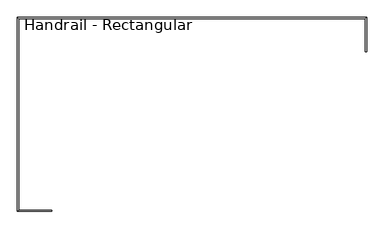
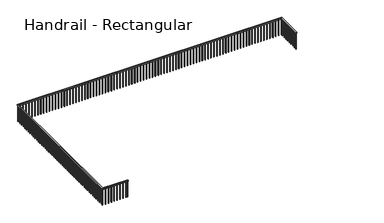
"""IFC4 building model written with IfcOpenShell, lengths in millimetres: railing geometry, Handrail - Rectangular."""

from ifc_helpers import new_model, si_unit, frame, origin, place, context, project, spatial, polyline, outline, extrude, faceted_brep, source, transform, mapped, element, save


def handrail_rectangular_46134f40(model_context):
    return source(origin(), model_context, "Body", "SolidModel", [
        faceted_brep([(-18781.6839563, 10624.0316867, 10058.4), (-18781.6839563, 10624.0316867, 10007.6), (-18730.8839563, 10624.0316867, 10007.6), (-18730.8839563, 10624.0316867, 10058.4), (-18730.8839563, 11970.2316867, 10058.4), (-18781.6839563, 11919.4316867, 10058.4), (-18730.8839563, 11970.2316867, 10007.6), (-18781.6839563, 11919.4316867, 10007.6), (-32446.8839563, 11970.2316867, 10058.4), (-32396.0839563, 11919.4316867, 10058.4), (-32446.8839563, 11970.2316867, 10007.6), (-32396.0839563, 11919.4316867, 10007.6), (-32446.8839563, 4350.2316867, 10058.4), (-32396.0839563, 4401.0316867, 10058.4), (-32446.8839563, 4350.2316867, 10007.6), (-32396.0839563, 4401.0316867, 10007.6), (-31100.6839563, 4401.0316867, 10058.4), (-31100.6839563, 4350.2316867, 10058.4), (-31100.6839563, 4350.2316867, 10007.6), (-31100.6839563, 4401.0316867, 10007.6)], [[[0, 1, 2, 3]], [[0, 3, 4, 5]], [[3, 2, 6, 4]], [[2, 1, 7, 6]], [[1, 0, 5, 7]], [[5, 4, 8, 9]], [[4, 6, 10, 8]], [[6, 7, 11, 10]], [[7, 5, 9, 11]], [[9, 8, 12, 13]], [[8, 10, 14, 12]], [[10, 11, 15, 14]], [[11, 9, 13, 15]], [[16, 17, 18, 19]], [[13, 12, 17, 16]], [[12, 14, 18, 17]], [[14, 15, 19, 18]], [[15, 13, 16, 19]]]),
        extrude(outline(polyline([(-31211.8089563, 4385.1566867), (-31192.7589563, 4385.1566867), (-31192.7589563, 4366.1066867), (-31211.8089563, 4366.1066867), (-31211.8089563, 4385.1566867)])), frame((0.0, 0.0, 9144.0), z_axis=(0.0, 0.0, 1.0), x_axis=(1.0, 0.0, 0.0)), (0.0, 0.0, 1.0), 863.6),
        extrude(outline(polyline([(-31364.2089563, 4385.1566867), (-31345.1589563, 4385.1566867), (-31345.1589563, 4366.1066867), (-31364.2089563, 4366.1066867), (-31364.2089563, 4385.1566867)])), frame((0.0, 0.0, 9144.0), z_axis=(0.0, 0.0, 1.0), x_axis=(1.0, 0.0, 0.0)), (0.0, 0.0, 1.0), 863.6),
        extrude(outline(polyline([(-31516.6089563, 4385.1566867), (-31497.5589563, 4385.1566867), (-31497.5589563, 4366.1066867), (-31516.6089563, 4366.1066867), (-31516.6089563, 4385.1566867)])), frame((0.0, 0.0, 9144.0), z_axis=(0.0, 0.0, 1.0), x_axis=(1.0, 0.0, 0.0)), (0.0, 0.0, 1.0), 863.6),
        extrude(outline(polyline([(-31669.0089563, 4385.1566867), (-31649.9589563, 4385.1566867), (-31649.9589563, 4366.1066867), (-31669.0089563, 4366.1066867), (-31669.0089563, 4385.1566867)])), frame((0.0, 0.0, 9144.0), z_axis=(0.0, 0.0, 1.0), x_axis=(1.0, 0.0, 0.0)), (0.0, 0.0, 1.0), 863.6),
        extrude(outline(polyline([(-31821.4089563, 4385.1566867), (-31802.3589563, 4385.1566867), (-31802.3589563, 4366.1066867), (-31821.4089563, 4366.1066867), (-31821.4089563, 4385.1566867)])), frame((0.0, 0.0, 9144.0), z_axis=(0.0, 0.0, 1.0), x_axis=(1.0, 0.0, 0.0)), (0.0, 0.0, 1.0), 863.6),
        extrude(outline(polyline([(-31973.8089563, 4385.1566867), (-31954.7589563, 4385.1566867), (-31954.7589563, 4366.1066867), (-31973.8089563, 4366.1066867), (-31973.8089563, 4385.1566867)])), frame((0.0, 0.0, 9144.0), z_axis=(0.0, 0.0, 1.0), x_axis=(1.0, 0.0, 0.0)), (0.0, 0.0, 1.0), 863.6),
        extrude(outline(polyline([(-32126.2089563, 4385.1566867), (-32107.1589563, 4385.1566867), (-32107.1589563, 4366.1066867), (-32126.2089563, 4366.1066867), (-32126.2089563, 4385.1566867)])), frame((0.0, 0.0, 9144.0), z_axis=(0.0, 0.0, 1.0), x_axis=(1.0, 0.0, 0.0)), (0.0, 0.0, 1.0), 863.6),
        extrude(outline(polyline([(-32278.6089563, 4385.1566867), (-32259.5589563, 4385.1566867), (-32259.5589563, 4366.1066867), (-32278.6089563, 4366.1066867), (-32278.6089563, 4385.1566867)])), frame((0.0, 0.0, 9144.0), z_axis=(0.0, 0.0, 1.0), x_axis=(1.0, 0.0, 0.0)), (0.0, 0.0, 1.0), 863.6),
        extrude(outline(polyline([(-32411.9589563, 4486.7566867), (-32411.9589563, 4467.7066867), (-32431.0089563, 4467.7066867), (-32431.0089563, 4486.7566867), (-32411.9589563, 4486.7566867)])), frame((0.0, 0.0, 9144.0), z_axis=(0.0, 0.0, 1.0), x_axis=(1.0, 0.0, 0.0)), (0.0, 0.0, 1.0), 863.6),
        extrude(outline(polyline([(-32411.9589563, 4639.1566867), (-32411.9589563, 4620.1066867), (-32431.0089563, 4620.1066867), (-32431.0089563, 4639.1566867), (-32411.9589563, 4639.1566867)])), frame((0.0, 0.0, 9144.0), z_axis=(0.0, 0.0, 1.0), x_axis=(1.0, 0.0, 0.0)), (0.0, 0.0, 1.0), 863.6),
        extrude(outline(polyline([(-32411.9589563, 4791.5566867), (-32411.9589563, 4772.5066867), (-32431.0089563, 4772.5066867), (-32431.0089563, 4791.5566867), (-32411.9589563, 4791.5566867)])), frame((0.0, 0.0, 9144.0), z_axis=(0.0, 0.0, 1.0), x_axis=(1.0, 0.0, 0.0)), (0.0, 0.0, 1.0), 863.6),
        extrude(outline(polyline([(-32411.9589563, 4943.9566867), (-32411.9589563, 4924.9066867), (-32431.0089563, 4924.9066867), (-32431.0089563, 4943.9566867), (-32411.9589563, 4943.9566867)])), frame((0.0, 0.0, 9144.0), z_axis=(0.0, 0.0, 1.0), x_axis=(1.0, 0.0, 0.0)), (0.0, 0.0, 1.0), 863.6),
        extrude(outline(polyline([(-32411.9589563, 5096.3566867), (-32411.9589563, 5077.3066867), (-32431.0089563, 5077.3066867), (-32431.0089563, 5096.3566867), (-32411.9589563, 5096.3566867)])), frame((0.0, 0.0, 9144.0), z_axis=(0.0, 0.0, 1.0), x_axis=(1.0, 0.0, 0.0)), (0.0, 0.0, 1.0), 863.6),
        extrude(outline(polyline([(-32411.9589563, 5248.7566867), (-32411.9589563, 5229.7066867), (-32431.0089563, 5229.7066867), (-32431.0089563, 5248.7566867), (-32411.9589563, 5248.7566867)])), frame((0.0, 0.0, 9144.0), z_axis=(0.0, 0.0, 1.0), x_axis=(1.0, 0.0, 0.0)), (0.0, 0.0, 1.0), 863.6),
        extrude(outline(polyline([(-32411.9589563, 5401.1566867), (-32411.9589563, 5382.1066867), (-32431.0089563, 5382.1066867), (-32431.0089563, 5401.1566867), (-32411.9589563, 5401.1566867)])), frame((0.0, 0.0, 9144.0), z_axis=(0.0, 0.0, 1.0), x_axis=(1.0, 0.0, 0.0)), (0.0, 0.0, 1.0), 863.6),
        extrude(outline(polyline([(-32411.9589563, 5553.5566867), (-32411.9589563, 5534.5066867), (-32431.0089563, 5534.5066867), (-32431.0089563, 5553.5566867), (-32411.9589563, 5553.5566867)])), frame((0.0, 0.0, 9144.0), z_axis=(0.0, 0.0, 1.0), x_axis=(1.0, 0.0, 0.0)), (0.0, 0.0, 1.0), 863.6),
        extrude(outline(polyline([(-32411.9589563, 5705.9566867), (-32411.9589563, 5686.9066867), (-32431.0089563, 5686.9066867), (-32431.0089563, 5705.9566867), (-32411.9589563, 5705.9566867)])), frame((0.0, 0.0, 9144.0), z_axis=(0.0, 0.0, 1.0), x_axis=(1.0, 0.0, 0.0)), (0.0, 0.0, 1.0), 863.6),
        extrude(outline(polyline([(-32411.9589563, 5858.3566867), (-32411.9589563, 5839.3066867), (-32431.0089563, 5839.3066867), (-32431.0089563, 5858.3566867), (-32411.9589563, 5858.3566867)])), frame((0.0, 0.0, 9144.0), z_axis=(0.0, 0.0, 1.0), x_axis=(1.0, 0.0, 0.0)), (0.0, 0.0, 1.0), 863.6),
        extrude(outline(polyline([(-32411.9589563, 6010.7566867), (-32411.9589563, 5991.7066867), (-32431.0089563, 5991.7066867), (-32431.0089563, 6010.7566867), (-32411.9589563, 6010.7566867)])), frame((0.0, 0.0, 9144.0), z_axis=(0.0, 0.0, 1.0), x_axis=(1.0, 0.0, 0.0)), (0.0, 0.0, 1.0), 863.6),
        extrude(outline(polyline([(-32411.9589563, 6163.1566867), (-32411.9589563, 6144.1066867), (-32431.0089563, 6144.1066867), (-32431.0089563, 6163.1566867), (-32411.9589563, 6163.1566867)])), frame((0.0, 0.0, 9144.0), z_axis=(0.0, 0.0, 1.0), x_axis=(1.0, 0.0, 0.0)), (0.0, 0.0, 1.0), 863.6),
        extrude(outline(polyline([(-32411.9589563, 6315.5566867), (-32411.9589563, 6296.5066867), (-32431.0089563, 6296.5066867), (-32431.0089563, 6315.5566867), (-32411.9589563, 6315.5566867)])), frame((0.0, 0.0, 9144.0), z_axis=(0.0, 0.0, 1.0), x_axis=(1.0, 0.0, 0.0)), (0.0, 0.0, 1.0), 863.6),
        extrude(outline(polyline([(-32411.9589563, 6467.9566867), (-32411.9589563, 6448.9066867), (-32431.0089563, 6448.9066867), (-32431.0089563, 6467.9566867), (-32411.9589563, 6467.9566867)])), frame((0.0, 0.0, 9144.0), z_axis=(0.0, 0.0, 1.0), x_axis=(1.0, 0.0, 0.0)), (0.0, 0.0, 1.0), 863.6),
        extrude(outline(polyline([(-32411.9589563, 6620.3566867), (-32411.9589563, 6601.3066867), (-32431.0089563, 6601.3066867), (-32431.0089563, 6620.3566867), (-32411.9589563, 6620.3566867)])), frame((0.0, 0.0, 9144.0), z_axis=(0.0, 0.0, 1.0), x_axis=(1.0, 0.0, 0.0)), (0.0, 0.0, 1.0), 863.6),
        extrude(outline(polyline([(-32411.9589563, 6772.7566867), (-32411.9589563, 6753.7066867), (-32431.0089563, 6753.7066867), (-32431.0089563, 6772.7566867), (-32411.9589563, 6772.7566867)])), frame((0.0, 0.0, 9144.0), z_axis=(0.0, 0.0, 1.0), x_axis=(1.0, 0.0, 0.0)), (0.0, 0.0, 1.0), 863.6),
        extrude(outline(polyline([(-32411.9589563, 6925.1566867), (-32411.9589563, 6906.1066867), (-32431.0089563, 6906.1066867), (-32431.0089563, 6925.1566867), (-32411.9589563, 6925.1566867)])), frame((0.0, 0.0, 9144.0), z_axis=(0.0, 0.0, 1.0), x_axis=(1.0, 0.0, 0.0)), (0.0, 0.0, 1.0), 863.6),
        extrude(outline(polyline([(-32411.9589563, 7077.5566867), (-32411.9589563, 7058.5066867), (-32431.0089563, 7058.5066867), (-32431.0089563, 7077.5566867), (-32411.9589563, 7077.5566867)])), frame((0.0, 0.0, 9144.0), z_axis=(0.0, 0.0, 1.0), x_axis=(1.0, 0.0, 0.0)), (0.0, 0.0, 1.0), 863.6),
        extrude(outline(polyline([(-32411.9589563, 7229.9566867), (-32411.9589563, 7210.9066867), (-32431.0089563, 7210.9066867), (-32431.0089563, 7229.9566867), (-32411.9589563, 7229.9566867)])), frame((0.0, 0.0, 9144.0), z_axis=(0.0, 0.0, 1.0), x_axis=(1.0, 0.0, 0.0)), (0.0, 0.0, 1.0), 863.6),
        extrude(outline(polyline([(-32411.9589563, 7382.3566867), (-32411.9589563, 7363.3066867), (-32431.0089563, 7363.3066867), (-32431.0089563, 7382.3566867), (-32411.9589563, 7382.3566867)])), frame((0.0, 0.0, 9144.0), z_axis=(0.0, 0.0, 1.0), x_axis=(1.0, 0.0, 0.0)), (0.0, 0.0, 1.0), 863.6),
        extrude(outline(polyline([(-32411.9589563, 7534.7566867), (-32411.9589563, 7515.7066867), (-32431.0089563, 7515.7066867), (-32431.0089563, 7534.7566867), (-32411.9589563, 7534.7566867)])), frame((0.0, 0.0, 9144.0), z_axis=(0.0, 0.0, 1.0), x_axis=(1.0, 0.0, 0.0)), (0.0, 0.0, 1.0), 863.6),
        extrude(outline(polyline([(-32411.9589563, 7687.1566867), (-32411.9589563, 7668.1066867), (-32431.0089563, 7668.1066867), (-32431.0089563, 7687.1566867), (-32411.9589563, 7687.1566867)])), frame((0.0, 0.0, 9144.0), z_axis=(0.0, 0.0, 1.0), x_axis=(1.0, 0.0, 0.0)), (0.0, 0.0, 1.0), 863.6),
        extrude(outline(polyline([(-32411.9589563, 7839.5566867), (-32411.9589563, 7820.5066867), (-32431.0089563, 7820.5066867), (-32431.0089563, 7839.5566867), (-32411.9589563, 7839.5566867)])), frame((0.0, 0.0, 9144.0), z_axis=(0.0, 0.0, 1.0), x_axis=(1.0, 0.0, 0.0)), (0.0, 0.0, 1.0), 863.6),
        extrude(outline(polyline([(-32411.9589563, 7991.9566867), (-32411.9589563, 7972.9066867), (-32431.0089563, 7972.9066867), (-32431.0089563, 7991.9566867), (-32411.9589563, 7991.9566867)])), frame((0.0, 0.0, 9144.0), z_axis=(0.0, 0.0, 1.0), x_axis=(1.0, 0.0, 0.0)), (0.0, 0.0, 1.0), 863.6),
        extrude(outline(polyline([(-32411.9589563, 8144.3566867), (-32411.9589563, 8125.3066867), (-32431.0089563, 8125.3066867), (-32431.0089563, 8144.3566867), (-32411.9589563, 8144.3566867)])), frame((0.0, 0.0, 9144.0), z_axis=(0.0, 0.0, 1.0), x_axis=(1.0, 0.0, 0.0)), (0.0, 0.0, 1.0), 863.6),
        extrude(outline(polyline([(-32411.9589563, 8296.7566867), (-32411.9589563, 8277.7066867), (-32431.0089563, 8277.7066867), (-32431.0089563, 8296.7566867), (-32411.9589563, 8296.7566867)])), frame((0.0, 0.0, 9144.0), z_axis=(0.0, 0.0, 1.0), x_axis=(1.0, 0.0, 0.0)), (0.0, 0.0, 1.0), 863.6),
        extrude(outline(polyline([(-32411.9589563, 8449.1566867), (-32411.9589563, 8430.1066867), (-32431.0089563, 8430.1066867), (-32431.0089563, 8449.1566867), (-32411.9589563, 8449.1566867)])), frame((0.0, 0.0, 9144.0), z_axis=(0.0, 0.0, 1.0), x_axis=(1.0, 0.0, 0.0)), (0.0, 0.0, 1.0), 863.6),
        extrude(outline(polyline([(-32411.9589563, 8601.5566867), (-32411.9589563, 8582.5066867), (-32431.0089563, 8582.5066867), (-32431.0089563, 8601.5566867), (-32411.9589563, 8601.5566867)])), frame((0.0, 0.0, 9144.0), z_axis=(0.0, 0.0, 1.0), x_axis=(1.0, 0.0, 0.0)), (0.0, 0.0, 1.0), 863.6),
        extrude(outline(polyline([(-32411.9589563, 8753.9566867), (-32411.9589563, 8734.9066867), (-32431.0089563, 8734.9066867), (-32431.0089563, 8753.9566867), (-32411.9589563, 8753.9566867)])), frame((0.0, 0.0, 9144.0), z_axis=(0.0, 0.0, 1.0), x_axis=(1.0, 0.0, 0.0)), (0.0, 0.0, 1.0), 863.6),
        extrude(outline(polyline([(-32411.9589563, 8906.3566867), (-32411.9589563, 8887.3066867), (-32431.0089563, 8887.3066867), (-32431.0089563, 8906.3566867), (-32411.9589563, 8906.3566867)])), frame((0.0, 0.0, 9144.0), z_axis=(0.0, 0.0, 1.0), x_axis=(1.0, 0.0, 0.0)), (0.0, 0.0, 1.0), 863.6),
        extrude(outline(polyline([(-32411.9589563, 9058.7566867), (-32411.9589563, 9039.7066867), (-32431.0089563, 9039.7066867), (-32431.0089563, 9058.7566867), (-32411.9589563, 9058.7566867)])), frame((0.0, 0.0, 9144.0), z_axis=(0.0, 0.0, 1.0), x_axis=(1.0, 0.0, 0.0)), (0.0, 0.0, 1.0), 863.6),
        extrude(outline(polyline([(-32411.9589563, 9211.1566867), (-32411.9589563, 9192.1066867), (-32431.0089563, 9192.1066867), (-32431.0089563, 9211.1566867), (-32411.9589563, 9211.1566867)])), frame((0.0, 0.0, 9144.0), z_axis=(0.0, 0.0, 1.0), x_axis=(1.0, 0.0, 0.0)), (0.0, 0.0, 1.0), 863.6),
        extrude(outline(polyline([(-32411.9589563, 9363.5566867), (-32411.9589563, 9344.5066867), (-32431.0089563, 9344.5066867), (-32431.0089563, 9363.5566867), (-32411.9589563, 9363.5566867)])), frame((0.0, 0.0, 9144.0), z_axis=(0.0, 0.0, 1.0), x_axis=(1.0, 0.0, 0.0)), (0.0, 0.0, 1.0), 863.6),
        extrude(outline(polyline([(-32411.9589563, 9515.9566867), (-32411.9589563, 9496.9066867), (-32431.0089563, 9496.9066867), (-32431.0089563, 9515.9566867), (-32411.9589563, 9515.9566867)])), frame((0.0, 0.0, 9144.0), z_axis=(0.0, 0.0, 1.0), x_axis=(1.0, 0.0, 0.0)), (0.0, 0.0, 1.0), 863.6),
        extrude(outline(polyline([(-32411.9589563, 9668.3566867), (-32411.9589563, 9649.3066867), (-32431.0089563, 9649.3066867), (-32431.0089563, 9668.3566867), (-32411.9589563, 9668.3566867)])), frame((0.0, 0.0, 9144.0), z_axis=(0.0, 0.0, 1.0), x_axis=(1.0, 0.0, 0.0)), (0.0, 0.0, 1.0), 863.6),
        extrude(outline(polyline([(-32411.9589563, 9820.7566867), (-32411.9589563, 9801.7066867), (-32431.0089563, 9801.7066867), (-32431.0089563, 9820.7566867), (-32411.9589563, 9820.7566867)])), frame((0.0, 0.0, 9144.0), z_axis=(0.0, 0.0, 1.0), x_axis=(1.0, 0.0, 0.0)), (0.0, 0.0, 1.0), 863.6),
        extrude(outline(polyline([(-32411.9589563, 9973.1566867), (-32411.9589563, 9954.1066867), (-32431.0089563, 9954.1066867), (-32431.0089563, 9973.1566867), (-32411.9589563, 9973.1566867)])), frame((0.0, 0.0, 9144.0), z_axis=(0.0, 0.0, 1.0), x_axis=(1.0, 0.0, 0.0)), (0.0, 0.0, 1.0), 863.6),
        extrude(outline(polyline([(-32411.9589563, 10125.5566867), (-32411.9589563, 10106.5066867), (-32431.0089563, 10106.5066867), (-32431.0089563, 10125.5566867), (-32411.9589563, 10125.5566867)])), frame((0.0, 0.0, 9144.0), z_axis=(0.0, 0.0, 1.0), x_axis=(1.0, 0.0, 0.0)), (0.0, 0.0, 1.0), 863.6),
        extrude(outline(polyline([(-32411.9589563, 10277.9566867), (-32411.9589563, 10258.9066867), (-32431.0089563, 10258.9066867), (-32431.0089563, 10277.9566867), (-32411.9589563, 10277.9566867)])), frame((0.0, 0.0, 9144.0), z_axis=(0.0, 0.0, 1.0), x_axis=(1.0, 0.0, 0.0)), (0.0, 0.0, 1.0), 863.6),
        extrude(outline(polyline([(-32411.9589563, 10430.3566867), (-32411.9589563, 10411.3066867), (-32431.0089563, 10411.3066867), (-32431.0089563, 10430.3566867), (-32411.9589563, 10430.3566867)])), frame((0.0, 0.0, 9144.0), z_axis=(0.0, 0.0, 1.0), x_axis=(1.0, 0.0, 0.0)), (0.0, 0.0, 1.0), 863.6),
        extrude(outline(polyline([(-32411.9589563, 10582.7566867), (-32411.9589563, 10563.7066867), (-32431.0089563, 10563.7066867), (-32431.0089563, 10582.7566867), (-32411.9589563, 10582.7566867)])), frame((0.0, 0.0, 9144.0), z_axis=(0.0, 0.0, 1.0), x_axis=(1.0, 0.0, 0.0)), (0.0, 0.0, 1.0), 863.6),
        extrude(outline(polyline([(-32411.9589563, 10735.1566867), (-32411.9589563, 10716.1066867), (-32431.0089563, 10716.1066867), (-32431.0089563, 10735.1566867), (-32411.9589563, 10735.1566867)])), frame((0.0, 0.0, 9144.0), z_axis=(0.0, 0.0, 1.0), x_axis=(1.0, 0.0, 0.0)), (0.0, 0.0, 1.0), 863.6),
        extrude(outline(polyline([(-32411.9589563, 10887.5566867), (-32411.9589563, 10868.5066867), (-32431.0089563, 10868.5066867), (-32431.0089563, 10887.5566867), (-32411.9589563, 10887.5566867)])), frame((0.0, 0.0, 9144.0), z_axis=(0.0, 0.0, 1.0), x_axis=(1.0, 0.0, 0.0)), (0.0, 0.0, 1.0), 863.6),
        extrude(outline(polyline([(-32411.9589563, 11039.9566867), (-32411.9589563, 11020.9066867), (-32431.0089563, 11020.9066867), (-32431.0089563, 11039.9566867), (-32411.9589563, 11039.9566867)])), frame((0.0, 0.0, 9144.0), z_axis=(0.0, 0.0, 1.0), x_axis=(1.0, 0.0, 0.0)), (0.0, 0.0, 1.0), 863.6),
        extrude(outline(polyline([(-32411.9589563, 11192.3566867), (-32411.9589563, 11173.3066867), (-32431.0089563, 11173.3066867), (-32431.0089563, 11192.3566867), (-32411.9589563, 11192.3566867)])), frame((0.0, 0.0, 9144.0), z_axis=(0.0, 0.0, 1.0), x_axis=(1.0, 0.0, 0.0)), (0.0, 0.0, 1.0), 863.6),
        extrude(outline(polyline([(-32411.9589563, 11344.7566867), (-32411.9589563, 11325.7066867), (-32431.0089563, 11325.7066867), (-32431.0089563, 11344.7566867), (-32411.9589563, 11344.7566867)])), frame((0.0, 0.0, 9144.0), z_axis=(0.0, 0.0, 1.0), x_axis=(1.0, 0.0, 0.0)), (0.0, 0.0, 1.0), 863.6),
        extrude(outline(polyline([(-32411.9589563, 11497.1566867), (-32411.9589563, 11478.1066867), (-32431.0089563, 11478.1066867), (-32431.0089563, 11497.1566867), (-32411.9589563, 11497.1566867)])), frame((0.0, 0.0, 9144.0), z_axis=(0.0, 0.0, 1.0), x_axis=(1.0, 0.0, 0.0)), (0.0, 0.0, 1.0), 863.6),
        extrude(outline(polyline([(-32411.9589563, 11649.5566867), (-32411.9589563, 11630.5066867), (-32431.0089563, 11630.5066867), (-32431.0089563, 11649.5566867), (-32411.9589563, 11649.5566867)])), frame((0.0, 0.0, 9144.0), z_axis=(0.0, 0.0, 1.0), x_axis=(1.0, 0.0, 0.0)), (0.0, 0.0, 1.0), 863.6),
        extrude(outline(polyline([(-32411.9589563, 11801.9566867), (-32411.9589563, 11782.9066867), (-32431.0089563, 11782.9066867), (-32431.0089563, 11801.9566867), (-32411.9589563, 11801.9566867)])), frame((0.0, 0.0, 9144.0), z_axis=(0.0, 0.0, 1.0), x_axis=(1.0, 0.0, 0.0)), (0.0, 0.0, 1.0), 863.6),
        extrude(outline(polyline([(-32310.3589563, 11935.3066867), (-32329.4089563, 11935.3066867), (-32329.4089563, 11954.3566867), (-32310.3589563, 11954.3566867), (-32310.3589563, 11935.3066867)])), frame((0.0, 0.0, 9144.0), z_axis=(0.0, 0.0, 1.0), x_axis=(1.0, 0.0, 0.0)), (0.0, 0.0, 1.0), 863.6),
        extrude(outline(polyline([(-32157.9589563, 11935.3066867), (-32177.0089563, 11935.3066867), (-32177.0089563, 11954.3566867), (-32157.9589563, 11954.3566867), (-32157.9589563, 11935.3066867)])), frame((0.0, 0.0, 9144.0), z_axis=(0.0, 0.0, 1.0), x_axis=(1.0, 0.0, 0.0)), (0.0, 0.0, 1.0), 863.6),
        extrude(outline(polyline([(-32005.5589563, 11935.3066867), (-32024.6089563, 11935.3066867), (-32024.6089563, 11954.3566867), (-32005.5589563, 11954.3566867), (-32005.5589563, 11935.3066867)])), frame((0.0, 0.0, 9144.0), z_axis=(0.0, 0.0, 1.0), x_axis=(1.0, 0.0, 0.0)), (0.0, 0.0, 1.0), 863.6),
        extrude(outline(polyline([(-31853.1589563, 11935.3066867), (-31872.2089563, 11935.3066867), (-31872.2089563, 11954.3566867), (-31853.1589563, 11954.3566867), (-31853.1589563, 11935.3066867)])), frame((0.0, 0.0, 9144.0), z_axis=(0.0, 0.0, 1.0), x_axis=(1.0, 0.0, 0.0)), (0.0, 0.0, 1.0), 863.6),
        extrude(outline(polyline([(-31700.7589563, 11935.3066867), (-31719.8089563, 11935.3066867), (-31719.8089563, 11954.3566867), (-31700.7589563, 11954.3566867), (-31700.7589563, 11935.3066867)])), frame((0.0, 0.0, 9144.0), z_axis=(0.0, 0.0, 1.0), x_axis=(1.0, 0.0, 0.0)), (0.0, 0.0, 1.0), 863.6),
        extrude(outline(polyline([(-31548.3589563, 11935.3066867), (-31567.4089563, 11935.3066867), (-31567.4089563, 11954.3566867), (-31548.3589563, 11954.3566867), (-31548.3589563, 11935.3066867)])), frame((0.0, 0.0, 9144.0), z_axis=(0.0, 0.0, 1.0), x_axis=(1.0, 0.0, 0.0)), (0.0, 0.0, 1.0), 863.6),
        extrude(outline(polyline([(-31395.9589563, 11935.3066867), (-31415.0089563, 11935.3066867), (-31415.0089563, 11954.3566867), (-31395.9589563, 11954.3566867), (-31395.9589563, 11935.3066867)])), frame((0.0, 0.0, 9144.0), z_axis=(0.0, 0.0, 1.0), x_axis=(1.0, 0.0, 0.0)), (0.0, 0.0, 1.0), 863.6),
        extrude(outline(polyline([(-31243.5589563, 11935.3066867), (-31262.6089563, 11935.3066867), (-31262.6089563, 11954.3566867), (-31243.5589563, 11954.3566867), (-31243.5589563, 11935.3066867)])), frame((0.0, 0.0, 9144.0), z_axis=(0.0, 0.0, 1.0), x_axis=(1.0, 0.0, 0.0)), (0.0, 0.0, 1.0), 863.6),
        extrude(outline(polyline([(-31091.1589563, 11935.3066867), (-31110.2089563, 11935.3066867), (-31110.2089563, 11954.3566867), (-31091.1589563, 11954.3566867), (-31091.1589563, 11935.3066867)])), frame((0.0, 0.0, 9144.0), z_axis=(0.0, 0.0, 1.0), x_axis=(1.0, 0.0, 0.0)), (0.0, 0.0, 1.0), 863.6),
        extrude(outline(polyline([(-30938.7589563, 11935.3066867), (-30957.8089563, 11935.3066867), (-30957.8089563, 11954.3566867), (-30938.7589563, 11954.3566867), (-30938.7589563, 11935.3066867)])), frame((0.0, 0.0, 9144.0), z_axis=(0.0, 0.0, 1.0), x_axis=(1.0, 0.0, 0.0)), (0.0, 0.0, 1.0), 863.6),
        extrude(outline(polyline([(-30786.3589563, 11935.3066867), (-30805.4089563, 11935.3066867), (-30805.4089563, 11954.3566867), (-30786.3589563, 11954.3566867), (-30786.3589563, 11935.3066867)])), frame((0.0, 0.0, 9144.0), z_axis=(0.0, 0.0, 1.0), x_axis=(1.0, 0.0, 0.0)), (0.0, 0.0, 1.0), 863.6),
        extrude(outline(polyline([(-30633.9589563, 11935.3066867), (-30653.0089563, 11935.3066867), (-30653.0089563, 11954.3566867), (-30633.9589563, 11954.3566867), (-30633.9589563, 11935.3066867)])), frame((0.0, 0.0, 9144.0), z_axis=(0.0, 0.0, 1.0), x_axis=(1.0, 0.0, 0.0)), (0.0, 0.0, 1.0), 863.6),
        extrude(outline(polyline([(-30481.5589563, 11935.3066867), (-30500.6089563, 11935.3066867), (-30500.6089563, 11954.3566867), (-30481.5589563, 11954.3566867), (-30481.5589563, 11935.3066867)])), frame((0.0, 0.0, 9144.0), z_axis=(0.0, 0.0, 1.0), x_axis=(1.0, 0.0, 0.0)), (0.0, 0.0, 1.0), 863.6),
        extrude(outline(polyline([(-30329.1589563, 11935.3066867), (-30348.2089563, 11935.3066867), (-30348.2089563, 11954.3566867), (-30329.1589563, 11954.3566867), (-30329.1589563, 11935.3066867)])), frame((0.0, 0.0, 9144.0), z_axis=(0.0, 0.0, 1.0), x_axis=(1.0, 0.0, 0.0)), (0.0, 0.0, 1.0), 863.6),
        extrude(outline(polyline([(-30176.7589563, 11935.3066867), (-30195.8089563, 11935.3066867), (-30195.8089563, 11954.3566867), (-30176.7589563, 11954.3566867), (-30176.7589563, 11935.3066867)])), frame((0.0, 0.0, 9144.0), z_axis=(0.0, 0.0, 1.0), x_axis=(1.0, 0.0, 0.0)), (0.0, 0.0, 1.0), 863.6),
        extrude(outline(polyline([(-30024.3589563, 11935.3066867), (-30043.4089563, 11935.3066867), (-30043.4089563, 11954.3566867), (-30024.3589563, 11954.3566867), (-30024.3589563, 11935.3066867)])), frame((0.0, 0.0, 9144.0), z_axis=(0.0, 0.0, 1.0), x_axis=(1.0, 0.0, 0.0)), (0.0, 0.0, 1.0), 863.6),
        extrude(outline(polyline([(-29871.9589563, 11935.3066867), (-29891.0089563, 11935.3066867), (-29891.0089563, 11954.3566867), (-29871.9589563, 11954.3566867), (-29871.9589563, 11935.3066867)])), frame((0.0, 0.0, 9144.0), z_axis=(0.0, 0.0, 1.0), x_axis=(1.0, 0.0, 0.0)), (0.0, 0.0, 1.0), 863.6),
        extrude(outline(polyline([(-29719.5589563, 11935.3066867), (-29738.6089563, 11935.3066867), (-29738.6089563, 11954.3566867), (-29719.5589563, 11954.3566867), (-29719.5589563, 11935.3066867)])), frame((0.0, 0.0, 9144.0), z_axis=(0.0, 0.0, 1.0), x_axis=(1.0, 0.0, 0.0)), (0.0, 0.0, 1.0), 863.6),
        extrude(outline(polyline([(-29567.1589563, 11935.3066867), (-29586.2089563, 11935.3066867), (-29586.2089563, 11954.3566867), (-29567.1589563, 11954.3566867), (-29567.1589563, 11935.3066867)])), frame((0.0, 0.0, 9144.0), z_axis=(0.0, 0.0, 1.0), x_axis=(1.0, 0.0, 0.0)), (0.0, 0.0, 1.0), 863.6),
        extrude(outline(polyline([(-29414.7589563, 11935.3066867), (-29433.8089563, 11935.3066867), (-29433.8089563, 11954.3566867), (-29414.7589563, 11954.3566867), (-29414.7589563, 11935.3066867)])), frame((0.0, 0.0, 9144.0), z_axis=(0.0, 0.0, 1.0), x_axis=(1.0, 0.0, 0.0)), (0.0, 0.0, 1.0), 863.6),
        extrude(outline(polyline([(-29262.3589563, 11935.3066867), (-29281.4089563, 11935.3066867), (-29281.4089563, 11954.3566867), (-29262.3589563, 11954.3566867), (-29262.3589563, 11935.3066867)])), frame((0.0, 0.0, 9144.0), z_axis=(0.0, 0.0, 1.0), x_axis=(1.0, 0.0, 0.0)), (0.0, 0.0, 1.0), 863.6),
        extrude(outline(polyline([(-29109.9589563, 11935.3066867), (-29129.0089563, 11935.3066867), (-29129.0089563, 11954.3566867), (-29109.9589563, 11954.3566867), (-29109.9589563, 11935.3066867)])), frame((0.0, 0.0, 9144.0), z_axis=(0.0, 0.0, 1.0), x_axis=(1.0, 0.0, 0.0)), (0.0, 0.0, 1.0), 863.6),
        extrude(outline(polyline([(-28957.5589563, 11935.3066867), (-28976.6089563, 11935.3066867), (-28976.6089563, 11954.3566867), (-28957.5589563, 11954.3566867), (-28957.5589563, 11935.3066867)])), frame((0.0, 0.0, 9144.0), z_axis=(0.0, 0.0, 1.0), x_axis=(1.0, 0.0, 0.0)), (0.0, 0.0, 1.0), 863.6),
        extrude(outline(polyline([(-28805.1589563, 11935.3066867), (-28824.2089563, 11935.3066867), (-28824.2089563, 11954.3566867), (-28805.1589563, 11954.3566867), (-28805.1589563, 11935.3066867)])), frame((0.0, 0.0, 9144.0), z_axis=(0.0, 0.0, 1.0), x_axis=(1.0, 0.0, 0.0)), (0.0, 0.0, 1.0), 863.6),
        extrude(outline(polyline([(-28652.7589563, 11935.3066867), (-28671.8089563, 11935.3066867), (-28671.8089563, 11954.3566867), (-28652.7589563, 11954.3566867), (-28652.7589563, 11935.3066867)])), frame((0.0, 0.0, 9144.0), z_axis=(0.0, 0.0, 1.0), x_axis=(1.0, 0.0, 0.0)), (0.0, 0.0, 1.0), 863.6),
        extrude(outline(polyline([(-28500.3589563, 11935.3066867), (-28519.4089563, 11935.3066867), (-28519.4089563, 11954.3566867), (-28500.3589563, 11954.3566867), (-28500.3589563, 11935.3066867)])), frame((0.0, 0.0, 9144.0), z_axis=(0.0, 0.0, 1.0), x_axis=(1.0, 0.0, 0.0)), (0.0, 0.0, 1.0), 863.6),
        extrude(outline(polyline([(-28347.9589563, 11935.3066867), (-28367.0089563, 11935.3066867), (-28367.0089563, 11954.3566867), (-28347.9589563, 11954.3566867), (-28347.9589563, 11935.3066867)])), frame((0.0, 0.0, 9144.0), z_axis=(0.0, 0.0, 1.0), x_axis=(1.0, 0.0, 0.0)), (0.0, 0.0, 1.0), 863.6),
        extrude(outline(polyline([(-28195.5589563, 11935.3066867), (-28214.6089563, 11935.3066867), (-28214.6089563, 11954.3566867), (-28195.5589563, 11954.3566867), (-28195.5589563, 11935.3066867)])), frame((0.0, 0.0, 9144.0), z_axis=(0.0, 0.0, 1.0), x_axis=(1.0, 0.0, 0.0)), (0.0, 0.0, 1.0), 863.6),
        extrude(outline(polyline([(-28043.1589563, 11935.3066867), (-28062.2089563, 11935.3066867), (-28062.2089563, 11954.3566867), (-28043.1589563, 11954.3566867), (-28043.1589563, 11935.3066867)])), frame((0.0, 0.0, 9144.0), z_axis=(0.0, 0.0, 1.0), x_axis=(1.0, 0.0, 0.0)), (0.0, 0.0, 1.0), 863.6),
        extrude(outline(polyline([(-27890.7589563, 11935.3066867), (-27909.8089563, 11935.3066867), (-27909.8089563, 11954.3566867), (-27890.7589563, 11954.3566867), (-27890.7589563, 11935.3066867)])), frame((0.0, 0.0, 9144.0), z_axis=(0.0, 0.0, 1.0), x_axis=(1.0, 0.0, 0.0)), (0.0, 0.0, 1.0), 863.6),
        extrude(outline(polyline([(-27738.3589563, 11935.3066867), (-27757.4089563, 11935.3066867), (-27757.4089563, 11954.3566867), (-27738.3589563, 11954.3566867), (-27738.3589563, 11935.3066867)])), frame((0.0, 0.0, 9144.0), z_axis=(0.0, 0.0, 1.0), x_axis=(1.0, 0.0, 0.0)), (0.0, 0.0, 1.0), 863.6),
        extrude(outline(polyline([(-27585.9589563, 11935.3066867), (-27605.0089563, 11935.3066867), (-27605.0089563, 11954.3566867), (-27585.9589563, 11954.3566867), (-27585.9589563, 11935.3066867)])), frame((0.0, 0.0, 9144.0), z_axis=(0.0, 0.0, 1.0), x_axis=(1.0, 0.0, 0.0)), (0.0, 0.0, 1.0), 863.6),
        extrude(outline(polyline([(-27433.5589563, 11935.3066867), (-27452.6089563, 11935.3066867), (-27452.6089563, 11954.3566867), (-27433.5589563, 11954.3566867), (-27433.5589563, 11935.3066867)])), frame((0.0, 0.0, 9144.0), z_axis=(0.0, 0.0, 1.0), x_axis=(1.0, 0.0, 0.0)), (0.0, 0.0, 1.0), 863.6),
        extrude(outline(polyline([(-27281.1589563, 11935.3066867), (-27300.2089563, 11935.3066867), (-27300.2089563, 11954.3566867), (-27281.1589563, 11954.3566867), (-27281.1589563, 11935.3066867)])), frame((0.0, 0.0, 9144.0), z_axis=(0.0, 0.0, 1.0), x_axis=(1.0, 0.0, 0.0)), (0.0, 0.0, 1.0), 863.6),
        extrude(outline(polyline([(-27128.7589563, 11935.3066867), (-27147.8089563, 11935.3066867), (-27147.8089563, 11954.3566867), (-27128.7589563, 11954.3566867), (-27128.7589563, 11935.3066867)])), frame((0.0, 0.0, 9144.0), z_axis=(0.0, 0.0, 1.0), x_axis=(1.0, 0.0, 0.0)), (0.0, 0.0, 1.0), 863.6),
        extrude(outline(polyline([(-26976.3589563, 11935.3066867), (-26995.4089563, 11935.3066867), (-26995.4089563, 11954.3566867), (-26976.3589563, 11954.3566867), (-26976.3589563, 11935.3066867)])), frame((0.0, 0.0, 9144.0), z_axis=(0.0, 0.0, 1.0), x_axis=(1.0, 0.0, 0.0)), (0.0, 0.0, 1.0), 863.6),
        extrude(outline(polyline([(-26823.9589563, 11935.3066867), (-26843.0089563, 11935.3066867), (-26843.0089563, 11954.3566867), (-26823.9589563, 11954.3566867), (-26823.9589563, 11935.3066867)])), frame((0.0, 0.0, 9144.0), z_axis=(0.0, 0.0, 1.0), x_axis=(1.0, 0.0, 0.0)), (0.0, 0.0, 1.0), 863.6),
        extrude(outline(polyline([(-26671.5589563, 11935.3066867), (-26690.6089563, 11935.3066867), (-26690.6089563, 11954.3566867), (-26671.5589563, 11954.3566867), (-26671.5589563, 11935.3066867)])), frame((0.0, 0.0, 9144.0), z_axis=(0.0, 0.0, 1.0), x_axis=(1.0, 0.0, 0.0)), (0.0, 0.0, 1.0), 863.6),
        extrude(outline(polyline([(-26519.1589563, 11935.3066867), (-26538.2089563, 11935.3066867), (-26538.2089563, 11954.3566867), (-26519.1589563, 11954.3566867), (-26519.1589563, 11935.3066867)])), frame((0.0, 0.0, 9144.0), z_axis=(0.0, 0.0, 1.0), x_axis=(1.0, 0.0, 0.0)), (0.0, 0.0, 1.0), 863.6),
        extrude(outline(polyline([(-26366.7589563, 11935.3066867), (-26385.8089563, 11935.3066867), (-26385.8089563, 11954.3566867), (-26366.7589563, 11954.3566867), (-26366.7589563, 11935.3066867)])), frame((0.0, 0.0, 9144.0), z_axis=(0.0, 0.0, 1.0), x_axis=(1.0, 0.0, 0.0)), (0.0, 0.0, 1.0), 863.6),
        extrude(outline(polyline([(-26214.3589563, 11935.3066867), (-26233.4089563, 11935.3066867), (-26233.4089563, 11954.3566867), (-26214.3589563, 11954.3566867), (-26214.3589563, 11935.3066867)])), frame((0.0, 0.0, 9144.0), z_axis=(0.0, 0.0, 1.0), x_axis=(1.0, 0.0, 0.0)), (0.0, 0.0, 1.0), 863.6),
        extrude(outline(polyline([(-26061.9589563, 11935.3066867), (-26081.0089563, 11935.3066867), (-26081.0089563, 11954.3566867), (-26061.9589563, 11954.3566867), (-26061.9589563, 11935.3066867)])), frame((0.0, 0.0, 9144.0), z_axis=(0.0, 0.0, 1.0), x_axis=(1.0, 0.0, 0.0)), (0.0, 0.0, 1.0), 863.6),
        extrude(outline(polyline([(-25909.5589563, 11935.3066867), (-25928.6089563, 11935.3066867), (-25928.6089563, 11954.3566867), (-25909.5589563, 11954.3566867), (-25909.5589563, 11935.3066867)])), frame((0.0, 0.0, 9144.0), z_axis=(0.0, 0.0, 1.0), x_axis=(1.0, 0.0, 0.0)), (0.0, 0.0, 1.0), 863.6),
        extrude(outline(polyline([(-25757.1589563, 11935.3066867), (-25776.2089563, 11935.3066867), (-25776.2089563, 11954.3566867), (-25757.1589563, 11954.3566867), (-25757.1589563, 11935.3066867)])), frame((0.0, 0.0, 9144.0), z_axis=(0.0, 0.0, 1.0), x_axis=(1.0, 0.0, 0.0)), (0.0, 0.0, 1.0), 863.6),
        extrude(outline(polyline([(-25604.7589563, 11935.3066867), (-25623.8089563, 11935.3066867), (-25623.8089563, 11954.3566867), (-25604.7589563, 11954.3566867), (-25604.7589563, 11935.3066867)])), frame((0.0, 0.0, 9144.0), z_axis=(0.0, 0.0, 1.0), x_axis=(1.0, 0.0, 0.0)), (0.0, 0.0, 1.0), 863.6),
        extrude(outline(polyline([(-25452.3589563, 11935.3066867), (-25471.4089563, 11935.3066867), (-25471.4089563, 11954.3566867), (-25452.3589563, 11954.3566867), (-25452.3589563, 11935.3066867)])), frame((0.0, 0.0, 9144.0), z_axis=(0.0, 0.0, 1.0), x_axis=(1.0, 0.0, 0.0)), (0.0, 0.0, 1.0), 863.6),
        extrude(outline(polyline([(-25299.9589563, 11935.3066867), (-25319.0089563, 11935.3066867), (-25319.0089563, 11954.3566867), (-25299.9589563, 11954.3566867), (-25299.9589563, 11935.3066867)])), frame((0.0, 0.0, 9144.0), z_axis=(0.0, 0.0, 1.0), x_axis=(1.0, 0.0, 0.0)), (0.0, 0.0, 1.0), 863.6),
        extrude(outline(polyline([(-25147.5589563, 11935.3066867), (-25166.6089563, 11935.3066867), (-25166.6089563, 11954.3566867), (-25147.5589563, 11954.3566867), (-25147.5589563, 11935.3066867)])), frame((0.0, 0.0, 9144.0), z_axis=(0.0, 0.0, 1.0), x_axis=(1.0, 0.0, 0.0)), (0.0, 0.0, 1.0), 863.6),
        extrude(outline(polyline([(-24995.1589563, 11935.3066867), (-25014.2089563, 11935.3066867), (-25014.2089563, 11954.3566867), (-24995.1589563, 11954.3566867), (-24995.1589563, 11935.3066867)])), frame((0.0, 0.0, 9144.0), z_axis=(0.0, 0.0, 1.0), x_axis=(1.0, 0.0, 0.0)), (0.0, 0.0, 1.0), 863.6),
        extrude(outline(polyline([(-24842.7589563, 11935.3066867), (-24861.8089563, 11935.3066867), (-24861.8089563, 11954.3566867), (-24842.7589563, 11954.3566867), (-24842.7589563, 11935.3066867)])), frame((0.0, 0.0, 9144.0), z_axis=(0.0, 0.0, 1.0), x_axis=(1.0, 0.0, 0.0)), (0.0, 0.0, 1.0), 863.6),
        extrude(outline(polyline([(-24690.3589563, 11935.3066867), (-24709.4089563, 11935.3066867), (-24709.4089563, 11954.3566867), (-24690.3589563, 11954.3566867), (-24690.3589563, 11935.3066867)])), frame((0.0, 0.0, 9144.0), z_axis=(0.0, 0.0, 1.0), x_axis=(1.0, 0.0, 0.0)), (0.0, 0.0, 1.0), 863.6),
        extrude(outline(polyline([(-24537.9589563, 11935.3066867), (-24557.0089563, 11935.3066867), (-24557.0089563, 11954.3566867), (-24537.9589563, 11954.3566867), (-24537.9589563, 11935.3066867)])), frame((0.0, 0.0, 9144.0), z_axis=(0.0, 0.0, 1.0), x_axis=(1.0, 0.0, 0.0)), (0.0, 0.0, 1.0), 863.6),
        extrude(outline(polyline([(-24385.5589563, 11935.3066867), (-24404.6089563, 11935.3066867), (-24404.6089563, 11954.3566867), (-24385.5589563, 11954.3566867), (-24385.5589563, 11935.3066867)])), frame((0.0, 0.0, 9144.0), z_axis=(0.0, 0.0, 1.0), x_axis=(1.0, 0.0, 0.0)), (0.0, 0.0, 1.0), 863.6),
        extrude(outline(polyline([(-24233.1589563, 11935.3066867), (-24252.2089563, 11935.3066867), (-24252.2089563, 11954.3566867), (-24233.1589563, 11954.3566867), (-24233.1589563, 11935.3066867)])), frame((0.0, 0.0, 9144.0), z_axis=(0.0, 0.0, 1.0), x_axis=(1.0, 0.0, 0.0)), (0.0, 0.0, 1.0), 863.6),
        extrude(outline(polyline([(-24080.7589563, 11935.3066867), (-24099.8089563, 11935.3066867), (-24099.8089563, 11954.3566867), (-24080.7589563, 11954.3566867), (-24080.7589563, 11935.3066867)])), frame((0.0, 0.0, 9144.0), z_axis=(0.0, 0.0, 1.0), x_axis=(1.0, 0.0, 0.0)), (0.0, 0.0, 1.0), 863.6),
        extrude(outline(polyline([(-23928.3589563, 11935.3066867), (-23947.4089563, 11935.3066867), (-23947.4089563, 11954.3566867), (-23928.3589563, 11954.3566867), (-23928.3589563, 11935.3066867)])), frame((0.0, 0.0, 9144.0), z_axis=(0.0, 0.0, 1.0), x_axis=(1.0, 0.0, 0.0)), (0.0, 0.0, 1.0), 863.6),
        extrude(outline(polyline([(-23775.9589563, 11935.3066867), (-23795.0089563, 11935.3066867), (-23795.0089563, 11954.3566867), (-23775.9589563, 11954.3566867), (-23775.9589563, 11935.3066867)])), frame((0.0, 0.0, 9144.0), z_axis=(0.0, 0.0, 1.0), x_axis=(1.0, 0.0, 0.0)), (0.0, 0.0, 1.0), 863.6),
        extrude(outline(polyline([(-23623.5589563, 11935.3066867), (-23642.6089563, 11935.3066867), (-23642.6089563, 11954.3566867), (-23623.5589563, 11954.3566867), (-23623.5589563, 11935.3066867)])), frame((0.0, 0.0, 9144.0), z_axis=(0.0, 0.0, 1.0), x_axis=(1.0, 0.0, 0.0)), (0.0, 0.0, 1.0), 863.6),
        extrude(outline(polyline([(-23471.1589563, 11935.3066867), (-23490.2089563, 11935.3066867), (-23490.2089563, 11954.3566867), (-23471.1589563, 11954.3566867), (-23471.1589563, 11935.3066867)])), frame((0.0, 0.0, 9144.0), z_axis=(0.0, 0.0, 1.0), x_axis=(1.0, 0.0, 0.0)), (0.0, 0.0, 1.0), 863.6),
        extrude(outline(polyline([(-23318.7589563, 11935.3066867), (-23337.8089563, 11935.3066867), (-23337.8089563, 11954.3566867), (-23318.7589563, 11954.3566867), (-23318.7589563, 11935.3066867)])), frame((0.0, 0.0, 9144.0), z_axis=(0.0, 0.0, 1.0), x_axis=(1.0, 0.0, 0.0)), (0.0, 0.0, 1.0), 863.6),
        extrude(outline(polyline([(-23166.3589563, 11935.3066867), (-23185.4089563, 11935.3066867), (-23185.4089563, 11954.3566867), (-23166.3589563, 11954.3566867), (-23166.3589563, 11935.3066867)])), frame((0.0, 0.0, 9144.0), z_axis=(0.0, 0.0, 1.0), x_axis=(1.0, 0.0, 0.0)), (0.0, 0.0, 1.0), 863.6),
        extrude(outline(polyline([(-23013.9589563, 11935.3066867), (-23033.0089563, 11935.3066867), (-23033.0089563, 11954.3566867), (-23013.9589563, 11954.3566867), (-23013.9589563, 11935.3066867)])), frame((0.0, 0.0, 9144.0), z_axis=(0.0, 0.0, 1.0), x_axis=(1.0, 0.0, 0.0)), (0.0, 0.0, 1.0), 863.6),
        extrude(outline(polyline([(-22861.5589563, 11935.3066867), (-22880.6089563, 11935.3066867), (-22880.6089563, 11954.3566867), (-22861.5589563, 11954.3566867), (-22861.5589563, 11935.3066867)])), frame((0.0, 0.0, 9144.0), z_axis=(0.0, 0.0, 1.0), x_axis=(1.0, 0.0, 0.0)), (0.0, 0.0, 1.0), 863.6),
        extrude(outline(polyline([(-22709.1589563, 11935.3066867), (-22728.2089563, 11935.3066867), (-22728.2089563, 11954.3566867), (-22709.1589563, 11954.3566867), (-22709.1589563, 11935.3066867)])), frame((0.0, 0.0, 9144.0), z_axis=(0.0, 0.0, 1.0), x_axis=(1.0, 0.0, 0.0)), (0.0, 0.0, 1.0), 863.6),
        extrude(outline(polyline([(-22556.7589563, 11935.3066867), (-22575.8089563, 11935.3066867), (-22575.8089563, 11954.3566867), (-22556.7589563, 11954.3566867), (-22556.7589563, 11935.3066867)])), frame((0.0, 0.0, 9144.0), z_axis=(0.0, 0.0, 1.0), x_axis=(1.0, 0.0, 0.0)), (0.0, 0.0, 1.0), 863.6),
        extrude(outline(polyline([(-22404.3589563, 11935.3066867), (-22423.4089563, 11935.3066867), (-22423.4089563, 11954.3566867), (-22404.3589563, 11954.3566867), (-22404.3589563, 11935.3066867)])), frame((0.0, 0.0, 9144.0), z_axis=(0.0, 0.0, 1.0), x_axis=(1.0, 0.0, 0.0)), (0.0, 0.0, 1.0), 863.6),
        extrude(outline(polyline([(-22251.9589563, 11935.3066867), (-22271.0089563, 11935.3066867), (-22271.0089563, 11954.3566867), (-22251.9589563, 11954.3566867), (-22251.9589563, 11935.3066867)])), frame((0.0, 0.0, 9144.0), z_axis=(0.0, 0.0, 1.0), x_axis=(1.0, 0.0, 0.0)), (0.0, 0.0, 1.0), 863.6),
        extrude(outline(polyline([(-22099.5589563, 11935.3066867), (-22118.6089563, 11935.3066867), (-22118.6089563, 11954.3566867), (-22099.5589563, 11954.3566867), (-22099.5589563, 11935.3066867)])), frame((0.0, 0.0, 9144.0), z_axis=(0.0, 0.0, 1.0), x_axis=(1.0, 0.0, 0.0)), (0.0, 0.0, 1.0), 863.6),
        extrude(outline(polyline([(-21947.1589563, 11935.3066867), (-21966.2089563, 11935.3066867), (-21966.2089563, 11954.3566867), (-21947.1589563, 11954.3566867), (-21947.1589563, 11935.3066867)])), frame((0.0, 0.0, 9144.0), z_axis=(0.0, 0.0, 1.0), x_axis=(1.0, 0.0, 0.0)), (0.0, 0.0, 1.0), 863.6),
        extrude(outline(polyline([(-21794.7589563, 11935.3066867), (-21813.8089563, 11935.3066867), (-21813.8089563, 11954.3566867), (-21794.7589563, 11954.3566867), (-21794.7589563, 11935.3066867)])), frame((0.0, 0.0, 9144.0), z_axis=(0.0, 0.0, 1.0), x_axis=(1.0, 0.0, 0.0)), (0.0, 0.0, 1.0), 863.6),
        extrude(outline(polyline([(-21642.3589563, 11935.3066867), (-21661.4089563, 11935.3066867), (-21661.4089563, 11954.3566867), (-21642.3589563, 11954.3566867), (-21642.3589563, 11935.3066867)])), frame((0.0, 0.0, 9144.0), z_axis=(0.0, 0.0, 1.0), x_axis=(1.0, 0.0, 0.0)), (0.0, 0.0, 1.0), 863.6),
        extrude(outline(polyline([(-21489.9589563, 11935.3066867), (-21509.0089563, 11935.3066867), (-21509.0089563, 11954.3566867), (-21489.9589563, 11954.3566867), (-21489.9589563, 11935.3066867)])), frame((0.0, 0.0, 9144.0), z_axis=(0.0, 0.0, 1.0), x_axis=(1.0, 0.0, 0.0)), (0.0, 0.0, 1.0), 863.6),
        extrude(outline(polyline([(-21337.5589563, 11935.3066867), (-21356.6089563, 11935.3066867), (-21356.6089563, 11954.3566867), (-21337.5589563, 11954.3566867), (-21337.5589563, 11935.3066867)])), frame((0.0, 0.0, 9144.0), z_axis=(0.0, 0.0, 1.0), x_axis=(1.0, 0.0, 0.0)), (0.0, 0.0, 1.0), 863.6),
        extrude(outline(polyline([(-21185.1589563, 11935.3066867), (-21204.2089563, 11935.3066867), (-21204.2089563, 11954.3566867), (-21185.1589563, 11954.3566867), (-21185.1589563, 11935.3066867)])), frame((0.0, 0.0, 9144.0), z_axis=(0.0, 0.0, 1.0), x_axis=(1.0, 0.0, 0.0)), (0.0, 0.0, 1.0), 863.6),
        extrude(outline(polyline([(-21032.7589563, 11935.3066867), (-21051.8089563, 11935.3066867), (-21051.8089563, 11954.3566867), (-21032.7589563, 11954.3566867), (-21032.7589563, 11935.3066867)])), frame((0.0, 0.0, 9144.0), z_axis=(0.0, 0.0, 1.0), x_axis=(1.0, 0.0, 0.0)), (0.0, 0.0, 1.0), 863.6),
        extrude(outline(polyline([(-20880.3589563, 11935.3066867), (-20899.4089563, 11935.3066867), (-20899.4089563, 11954.3566867), (-20880.3589563, 11954.3566867), (-20880.3589563, 11935.3066867)])), frame((0.0, 0.0, 9144.0), z_axis=(0.0, 0.0, 1.0), x_axis=(1.0, 0.0, 0.0)), (0.0, 0.0, 1.0), 863.6),
        extrude(outline(polyline([(-20727.9589563, 11935.3066867), (-20747.0089563, 11935.3066867), (-20747.0089563, 11954.3566867), (-20727.9589563, 11954.3566867), (-20727.9589563, 11935.3066867)])), frame((0.0, 0.0, 9144.0), z_axis=(0.0, 0.0, 1.0), x_axis=(1.0, 0.0, 0.0)), (0.0, 0.0, 1.0), 863.6),
        extrude(outline(polyline([(-20575.5589563, 11935.3066867), (-20594.6089563, 11935.3066867), (-20594.6089563, 11954.3566867), (-20575.5589563, 11954.3566867), (-20575.5589563, 11935.3066867)])), frame((0.0, 0.0, 9144.0), z_axis=(0.0, 0.0, 1.0), x_axis=(1.0, 0.0, 0.0)), (0.0, 0.0, 1.0), 863.6),
        extrude(outline(polyline([(-20423.1589563, 11935.3066867), (-20442.2089563, 11935.3066867), (-20442.2089563, 11954.3566867), (-20423.1589563, 11954.3566867), (-20423.1589563, 11935.3066867)])), frame((0.0, 0.0, 9144.0), z_axis=(0.0, 0.0, 1.0), x_axis=(1.0, 0.0, 0.0)), (0.0, 0.0, 1.0), 863.6),
        extrude(outline(polyline([(-20270.7589563, 11935.3066867), (-20289.8089563, 11935.3066867), (-20289.8089563, 11954.3566867), (-20270.7589563, 11954.3566867), (-20270.7589563, 11935.3066867)])), frame((0.0, 0.0, 9144.0), z_axis=(0.0, 0.0, 1.0), x_axis=(1.0, 0.0, 0.0)), (0.0, 0.0, 1.0), 863.6),
        extrude(outline(polyline([(-20118.3589563, 11935.3066867), (-20137.4089563, 11935.3066867), (-20137.4089563, 11954.3566867), (-20118.3589563, 11954.3566867), (-20118.3589563, 11935.3066867)])), frame((0.0, 0.0, 9144.0), z_axis=(0.0, 0.0, 1.0), x_axis=(1.0, 0.0, 0.0)), (0.0, 0.0, 1.0), 863.6),
        extrude(outline(polyline([(-19965.9589563, 11935.3066867), (-19985.0089563, 11935.3066867), (-19985.0089563, 11954.3566867), (-19965.9589563, 11954.3566867), (-19965.9589563, 11935.3066867)])), frame((0.0, 0.0, 9144.0), z_axis=(0.0, 0.0, 1.0), x_axis=(1.0, 0.0, 0.0)), (0.0, 0.0, 1.0), 863.6),
        extrude(outline(polyline([(-19813.5589563, 11935.3066867), (-19832.6089563, 11935.3066867), (-19832.6089563, 11954.3566867), (-19813.5589563, 11954.3566867), (-19813.5589563, 11935.3066867)])), frame((0.0, 0.0, 9144.0), z_axis=(0.0, 0.0, 1.0), x_axis=(1.0, 0.0, 0.0)), (0.0, 0.0, 1.0), 863.6),
        extrude(outline(polyline([(-19661.1589563, 11935.3066867), (-19680.2089563, 11935.3066867), (-19680.2089563, 11954.3566867), (-19661.1589563, 11954.3566867), (-19661.1589563, 11935.3066867)])), frame((0.0, 0.0, 9144.0), z_axis=(0.0, 0.0, 1.0), x_axis=(1.0, 0.0, 0.0)), (0.0, 0.0, 1.0), 863.6),
        extrude(outline(polyline([(-19508.7589563, 11935.3066867), (-19527.8089563, 11935.3066867), (-19527.8089563, 11954.3566867), (-19508.7589563, 11954.3566867), (-19508.7589563, 11935.3066867)])), frame((0.0, 0.0, 9144.0), z_axis=(0.0, 0.0, 1.0), x_axis=(1.0, 0.0, 0.0)), (0.0, 0.0, 1.0), 863.6),
        extrude(outline(polyline([(-19356.3589563, 11935.3066867), (-19375.4089563, 11935.3066867), (-19375.4089563, 11954.3566867), (-19356.3589563, 11954.3566867), (-19356.3589563, 11935.3066867)])), frame((0.0, 0.0, 9144.0), z_axis=(0.0, 0.0, 1.0), x_axis=(1.0, 0.0, 0.0)), (0.0, 0.0, 1.0), 863.6),
        extrude(outline(polyline([(-19203.9589563, 11935.3066867), (-19223.0089563, 11935.3066867), (-19223.0089563, 11954.3566867), (-19203.9589563, 11954.3566867), (-19203.9589563, 11935.3066867)])), frame((0.0, 0.0, 9144.0), z_axis=(0.0, 0.0, 1.0), x_axis=(1.0, 0.0, 0.0)), (0.0, 0.0, 1.0), 863.6),
        extrude(outline(polyline([(-19051.5589563, 11935.3066867), (-19070.6089563, 11935.3066867), (-19070.6089563, 11954.3566867), (-19051.5589563, 11954.3566867), (-19051.5589563, 11935.3066867)])), frame((0.0, 0.0, 9144.0), z_axis=(0.0, 0.0, 1.0), x_axis=(1.0, 0.0, 0.0)), (0.0, 0.0, 1.0), 863.6),
        extrude(outline(polyline([(-18899.1589563, 11935.3066867), (-18918.2089563, 11935.3066867), (-18918.2089563, 11954.3566867), (-18899.1589563, 11954.3566867), (-18899.1589563, 11935.3066867)])), frame((0.0, 0.0, 9144.0), z_axis=(0.0, 0.0, 1.0), x_axis=(1.0, 0.0, 0.0)), (0.0, 0.0, 1.0), 863.6),
        extrude(outline(polyline([(-18765.8089563, 11833.7066867), (-18765.8089563, 11852.7566867), (-18746.7589563, 11852.7566867), (-18746.7589563, 11833.7066867), (-18765.8089563, 11833.7066867)])), frame((0.0, 0.0, 9144.0), z_axis=(0.0, 0.0, 1.0), x_axis=(1.0, 0.0, 0.0)), (0.0, 0.0, 1.0), 863.6),
        extrude(outline(polyline([(-18765.8089563, 11681.3066867), (-18765.8089563, 11700.3566867), (-18746.7589563, 11700.3566867), (-18746.7589563, 11681.3066867), (-18765.8089563, 11681.3066867)])), frame((0.0, 0.0, 9144.0), z_axis=(0.0, 0.0, 1.0), x_axis=(1.0, 0.0, 0.0)), (0.0, 0.0, 1.0), 863.6),
        extrude(outline(polyline([(-18765.8089563, 11528.9066867), (-18765.8089563, 11547.9566867), (-18746.7589563, 11547.9566867), (-18746.7589563, 11528.9066867), (-18765.8089563, 11528.9066867)])), frame((0.0, 0.0, 9144.0), z_axis=(0.0, 0.0, 1.0), x_axis=(1.0, 0.0, 0.0)), (0.0, 0.0, 1.0), 863.6),
        extrude(outline(polyline([(-18765.8089563, 11376.5066867), (-18765.8089563, 11395.5566867), (-18746.7589563, 11395.5566867), (-18746.7589563, 11376.5066867), (-18765.8089563, 11376.5066867)])), frame((0.0, 0.0, 9144.0), z_axis=(0.0, 0.0, 1.0), x_axis=(1.0, 0.0, 0.0)), (0.0, 0.0, 1.0), 863.6),
        extrude(outline(polyline([(-18765.8089563, 11224.1066867), (-18765.8089563, 11243.1566867), (-18746.7589563, 11243.1566867), (-18746.7589563, 11224.1066867), (-18765.8089563, 11224.1066867)])), frame((0.0, 0.0, 9144.0), z_axis=(0.0, 0.0, 1.0), x_axis=(1.0, 0.0, 0.0)), (0.0, 0.0, 1.0), 863.6),
        extrude(outline(polyline([(-18765.8089563, 11071.7066867), (-18765.8089563, 11090.7566867), (-18746.7589563, 11090.7566867), (-18746.7589563, 11071.7066867), (-18765.8089563, 11071.7066867)])), frame((0.0, 0.0, 9144.0), z_axis=(0.0, 0.0, 1.0), x_axis=(1.0, 0.0, 0.0)), (0.0, 0.0, 1.0), 863.6),
        extrude(outline(polyline([(-18765.8089563, 10919.3066867), (-18765.8089563, 10938.3566867), (-18746.7589563, 10938.3566867), (-18746.7589563, 10919.3066867), (-18765.8089563, 10919.3066867)])), frame((0.0, 0.0, 9144.0), z_axis=(0.0, 0.0, 1.0), x_axis=(1.0, 0.0, 0.0)), (0.0, 0.0, 1.0), 863.6),
        extrude(outline(polyline([(-18765.8089563, 10766.9066867), (-18765.8089563, 10785.9566867), (-18746.7589563, 10785.9566867), (-18746.7589563, 10766.9066867), (-18765.8089563, 10766.9066867)])), frame((0.0, 0.0, 9144.0), z_axis=(0.0, 0.0, 1.0), x_axis=(1.0, 0.0, 0.0)), (0.0, 0.0, 1.0), 863.6),
        extrude(outline(polyline([(-32411.9589563, 4385.1566867), (-32411.9589563, 4366.1066867), (-32431.0089563, 4366.1066867), (-32431.0089563, 4385.1566867), (-32411.9589563, 4385.1566867)])), frame((0.0, 0.0, 9144.0), z_axis=(0.0, 0.0, 1.0), x_axis=(1.0, 0.0, 0.0)), (0.0, 0.0, 1.0), 863.6),
        extrude(outline(polyline([(-32411.9589563, 11935.3066867), (-32431.0089563, 11935.3066867), (-32431.0089563, 11954.3566867), (-32411.9589563, 11954.3566867), (-32411.9589563, 11935.3066867)])), frame((0.0, 0.0, 9144.0), z_axis=(0.0, 0.0, 1.0), x_axis=(1.0, 0.0, 0.0)), (0.0, 0.0, 1.0), 863.6),
        extrude(outline(polyline([(-18765.8089563, 11935.3066867), (-18765.8089563, 11954.3566867), (-18746.7589563, 11954.3566867), (-18746.7589563, 11935.3066867), (-18765.8089563, 11935.3066867)])), frame((0.0, 0.0, 9144.0), z_axis=(0.0, 0.0, 1.0), x_axis=(1.0, 0.0, 0.0)), (0.0, 0.0, 1.0), 863.6),
        extrude(outline(polyline([(-31119.7339563, 4385.1566867), (-31100.6839563, 4385.1566867), (-31100.6839563, 4366.1066867), (-31119.7339563, 4366.1066867), (-31119.7339563, 4385.1566867)])), frame((0.0, 0.0, 9144.0), z_axis=(0.0, 0.0, 1.0), x_axis=(1.0, 0.0, 0.0)), (0.0, 0.0, 1.0), 863.6),
        extrude(outline(polyline([(-18765.8089563, 10624.0316867), (-18765.8089563, 10643.0816867), (-18746.7589563, 10643.0816867), (-18746.7589563, 10624.0316867), (-18765.8089563, 10624.0316867)])), frame((0.0, 0.0, 9144.0), z_axis=(0.0, 0.0, 1.0), x_axis=(1.0, 0.0, 0.0)), (0.0, 0.0, 1.0), 863.6),
    ])


if __name__ == "__main__":
    model = new_model("IFC4")
    model_context = context("Model", 3, world=origin())
    ifc_project = project(units=[si_unit("LENGTHUNIT", "METRE", prefix="MILLI")], contexts=[model_context])
    site = spatial("IfcSite", under=ifc_project)
    building = spatial("IfcBuilding", under=site)
    placement = place(None, origin())
    handrail_rectangular_shape = handrail_rectangular_46134f40(model_context)
    element("IfcRailing", 1, ObjectType="Handrail - Rectangular", at=placement, inside=building, context=model_context, shape_type="MappedRepresentation", body=[
        mapped(handrail_rectangular_shape, transform((0.0, 0.0, 0.0), x_axis=(1.0, 0.0, 0.0), y_axis=(0.0, 1.0, 0.0), z_axis=(0.0, 0.0, 1.0))),
    ])
    save(model, "model.ifc")
